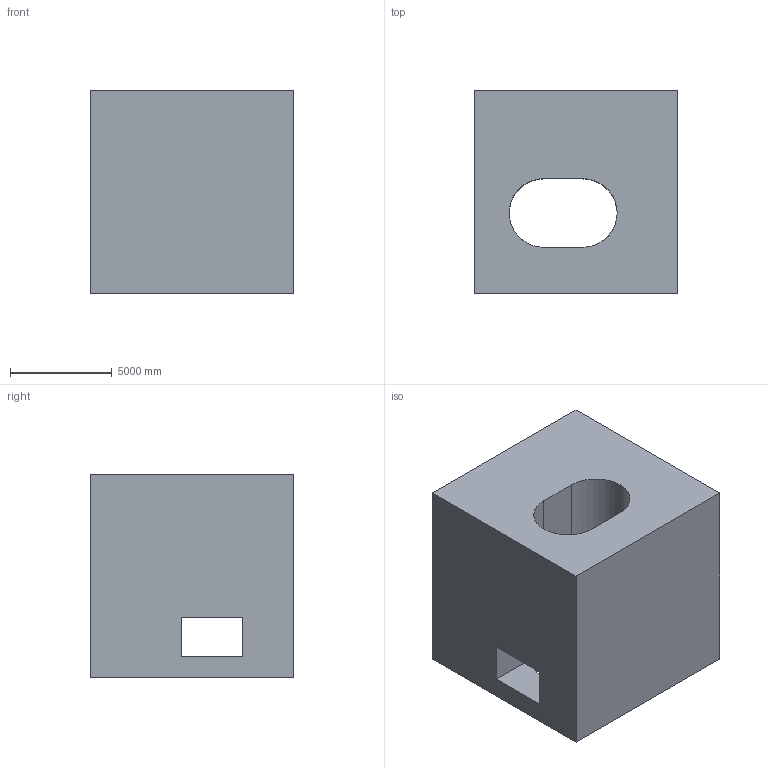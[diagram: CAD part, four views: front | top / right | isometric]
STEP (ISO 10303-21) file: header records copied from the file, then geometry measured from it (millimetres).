
FILE_DESCRIPTION (( 'STEP AP203' ), '1' );
FILE_NAME ('1124.STEP', '2022-08-18T12:51:20', ( 'user' ), ( '' ), 'SwSTEP 2.0', 'SolidWorks 2021', '' );
FILE_SCHEMA (( 'CONFIG_CONTROL_DESIGN' ));
Length unit declared in the file: centimetre
Products named in the file (1): 1124
Bounding box: 10000 x 10000 x 10000 mm (x, y, z)
Volume: 814740015942.8 mm3; surface area: 744540237.9 mm2
Topology: 1 solids, 1 shells, 19 faces, 54 edges, 36 vertices
Faces by surface type: plane 16, cylinder 3
Entity records: 709 total; most frequent: CARTESIAN_POINT 110, ORIENTED_EDGE 108, DIRECTION 106, EDGE_CURVE 54, VECTOR 42, LINE 42, VERTEX_POINT 36, AXIS2_PLACEMENT_3D 32
